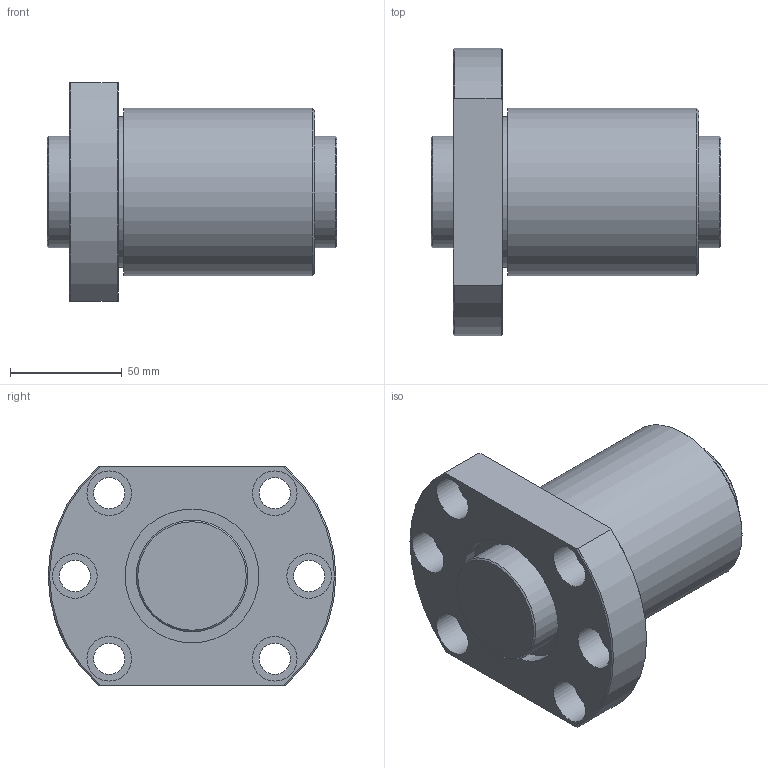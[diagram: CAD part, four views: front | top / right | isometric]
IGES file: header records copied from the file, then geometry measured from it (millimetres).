
Start section: Data from Parasolid IGES Translator 26.0.171, Copyright(c) 2006 Siemens PLM Software. All Rights Reserved.
Global section: file name: DK5012-4RRG1+130LC0_000.igs; native system: By Siemens PLM Incorporated; preprocessor: XPlus GENERIC/IGES 26.0.171; author: Noname; organization: Noname; date: 20250113.092102; units: millimetre
Bounding box: 130 x 129 x 98 mm (x, y, z)
Surface area: 97569.1 mm2 (no closed solid volume)
Topology: 0 solids, 0 shells, 46 faces, 200 edges, 178 vertices
Faces by surface type: revolution 30, extrusion 16
